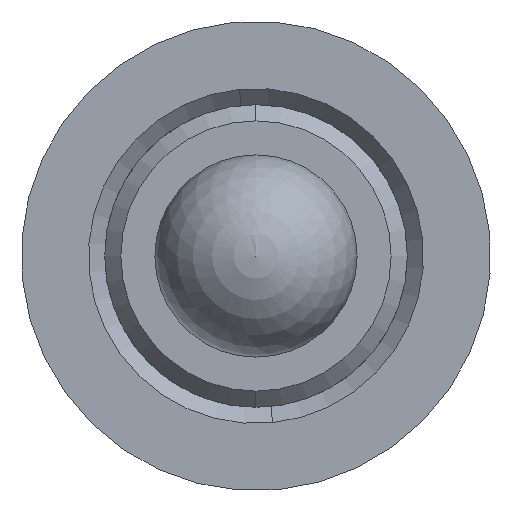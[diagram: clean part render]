
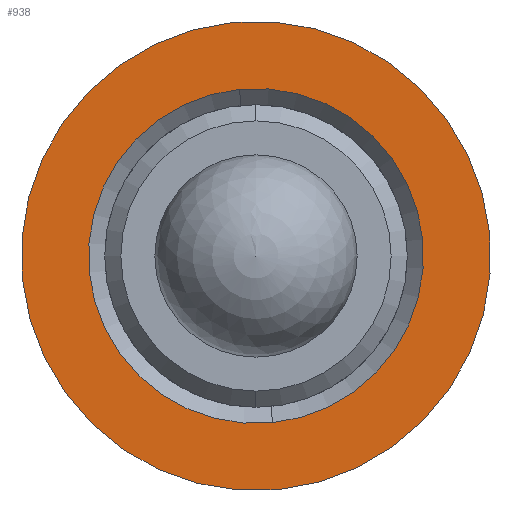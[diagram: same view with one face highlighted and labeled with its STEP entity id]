
A CAD part, left-side view. The second image highlights one B-rep face of the part: STEP entity #938.
In plain terms, the highlighted planar face has unit normal (-1, 0, 0).
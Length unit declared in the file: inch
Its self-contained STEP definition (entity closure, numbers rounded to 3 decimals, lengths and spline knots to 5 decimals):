
#1 = ORIENTED_EDGE ( 'NONE', *, *, #415, .T. ) ;
#3 = VERTEX_POINT ( 'NONE', #871 ) ;
#21 = AXIS2_PLACEMENT_3D ( 'NONE', #1379, #936, #1360 ) ;
#69 = EDGE_CURVE ( 'NONE', #3, #1052, #599, .T. ) ;
#80 = CIRCLE ( 'NONE', #473, 0.1035 ) ;
#155 = ORIENTED_EDGE ( 'NONE', *, *, #69, .T. ) ;
#200 = ORIENTED_EDGE ( 'NONE', *, *, #667, .T. ) ;
#243 = DIRECTION ( 'NONE',  ( 0., -0.099, -0.995 ) ) ;
#248 = DIRECTION ( 'NONE',  ( 1., 0., 0. ) ) ;
#253 = CARTESIAN_POINT ( 'NONE',  ( 0.06523, 1.19108, 1.6296 ) ) ;
#318 = AXIS2_PLACEMENT_3D ( 'NONE', #474, #482, #489 ) ;
#347 = EDGE_LOOP ( 'NONE', ( #200, #1364 ) ) ;
#415 = EDGE_CURVE ( 'NONE', #1052, #3, #978, .T. ) ;
#473 = AXIS2_PLACEMENT_3D ( 'NONE', #1036, #1028, #1017 ) ;
#474 = CARTESIAN_POINT ( 'NONE',  ( 0.06523, 1.19108, 1.6296 ) ) ;
#482 = DIRECTION ( 'NONE',  ( -1., 0., 0. ) ) ;
#489 = DIRECTION ( 'NONE',  ( 0., 0.099, 0.995 ) ) ;
#565 = VERTEX_POINT ( 'NONE', #1510 ) ;
#599 = CIRCLE ( 'NONE', #318, 0.145 ) ;
#667 = EDGE_CURVE ( 'NONE', #565, #1304, #80, .T. ) ;
#712 = AXIS2_PLACEMENT_3D ( 'NONE', #253, #248, #243 ) ;
#841 = AXIS2_PLACEMENT_3D ( 'NONE', #1405, #1382, #1385 ) ;
#862 = CARTESIAN_POINT ( 'NONE',  ( 0.06523, 1.18085, 1.52661 ) ) ;
#867 = EDGE_CURVE ( 'NONE', #1304, #565, #1137, .T. ) ;
#871 = CARTESIAN_POINT ( 'NONE',  ( 0.06523, 1.17675, 1.48531 ) ) ;
#936 = DIRECTION ( 'NONE',  ( 1., 0., 0. ) ) ;
#938 = ADVANCED_FACE ( 'NONE', ( #1374, #1098 ), #1388, .F. ) ;
#978 = CIRCLE ( 'NONE', #841, 0.145 ) ;
#1017 = DIRECTION ( 'NONE',  ( 0., -0.099, -0.995 ) ) ;
#1028 = DIRECTION ( 'NONE',  ( 1., 0., 0. ) ) ;
#1036 = CARTESIAN_POINT ( 'NONE',  ( 0.06523, 1.19108, 1.6296 ) ) ;
#1052 = VERTEX_POINT ( 'NONE', #1257 ) ;
#1098 = FACE_OUTER_BOUND ( 'NONE', #1251, .T. ) ;
#1137 = CIRCLE ( 'NONE', #21, 0.1035 ) ;
#1251 = EDGE_LOOP ( 'NONE', ( #1, #155 ) ) ;
#1257 = CARTESIAN_POINT ( 'NONE',  ( 0.06523, 1.2054, 1.77389 ) ) ;
#1304 = VERTEX_POINT ( 'NONE', #862 ) ;
#1360 = DIRECTION ( 'NONE',  ( 0., -0.099, -0.995 ) ) ;
#1364 = ORIENTED_EDGE ( 'NONE', *, *, #867, .T. ) ;
#1374 = FACE_BOUND ( 'NONE', #347, .T. ) ;
#1379 = CARTESIAN_POINT ( 'NONE',  ( 0.06523, 1.19108, 1.6296 ) ) ;
#1382 = DIRECTION ( 'NONE',  ( -1., 0., 0. ) ) ;
#1385 = DIRECTION ( 'NONE',  ( 0., 0.099, 0.995 ) ) ;
#1388 = PLANE ( 'NONE',  #712 ) ;
#1405 = CARTESIAN_POINT ( 'NONE',  ( 0.06523, 1.19108, 1.6296 ) ) ;
#1510 = CARTESIAN_POINT ( 'NONE',  ( 0.06523, 1.2013, 1.7326 ) ) ;
